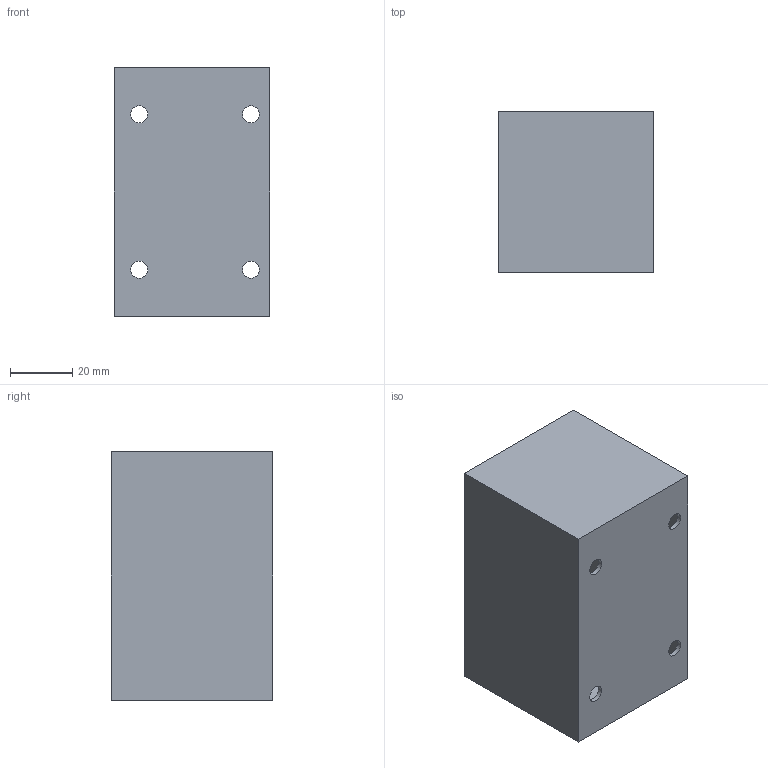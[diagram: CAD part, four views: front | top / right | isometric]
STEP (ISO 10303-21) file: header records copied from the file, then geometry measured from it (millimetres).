
FILE_DESCRIPTION(('Open CASCADE Model'),'2;1');
FILE_NAME('Open CASCADE Shape Model','2026-10-18T22:58:47',('Author'),( 'Open CASCADE'),'Open CASCADE STEP processor 7.9','Open CASCADE 7.9' ,'Unknown');
FILE_SCHEMA(('AUTOMOTIVE_DESIGN { 1 0 10303 214 1 1 1 1 }'));
Length unit declared in the file: millimetre
Products named in the file (1): Open CASCADE STEP translator 7.9 42
Bounding box: 50 x 52 x 80 mm (x, y, z)
Volume: 30383.9 mm3; surface area: 40737.2 mm2
Topology: 1 solids, 1 shells, 20 faces, 48 edges, 32 vertices
Faces by surface type: plane 12, cylinder 8
Full cylindrical faces by diameter (mm): 5.5 x8
Entity records: 1274 total; most frequent: CARTESIAN_POINT 245, DIRECTION 194, LINE 112, VECTOR 112, ORIENTED_EDGE 96, PCURVE 96, DEFINITIONAL_REPRESENTATION 96, EDGE_CURVE 48
